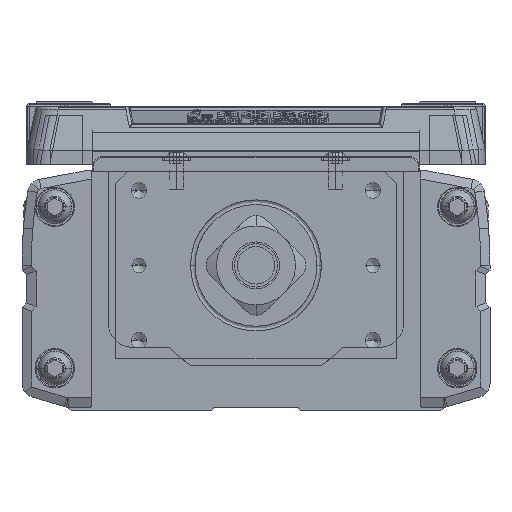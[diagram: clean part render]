
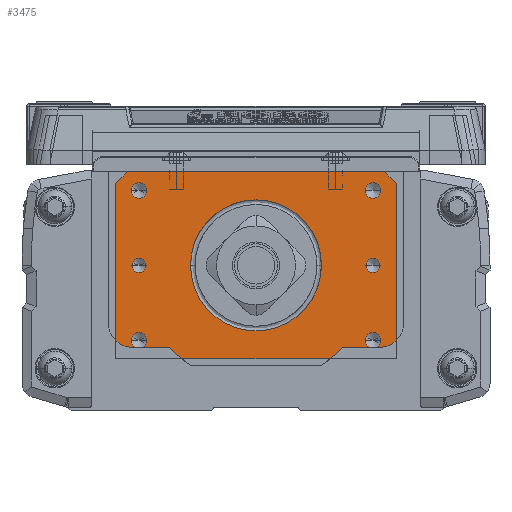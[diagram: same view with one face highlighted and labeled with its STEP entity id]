
A CAD part, left-side view. The second image highlights one B-rep face of the part: STEP entity #3475.
In plain terms, the highlighted planar face has unit normal (-1, 0, 0).
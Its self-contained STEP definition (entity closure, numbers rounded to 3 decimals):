
#3475=ADVANCED_FACE('',(#8421,#8422,#8423,#8424,#8425,#8426,#8427,#8428),#8429,.T.);
#8421=FACE_BOUND('',#15323,.T.);
#8422=FACE_BOUND('',#15324,.T.);
#8423=FACE_BOUND('',#15325,.T.);
#8424=FACE_BOUND('',#15326,.T.);
#8425=FACE_BOUND('',#15327,.T.);
#8426=FACE_BOUND('',#15328,.T.);
#8427=FACE_BOUND('',#15329,.T.);
#8428=FACE_OUTER_BOUND('',#15330,.T.);
#8429=PLANE('',#15331);
#15323=EDGE_LOOP('',(#25221,#25222));
#15324=EDGE_LOOP('',(#25223,#25224));
#15325=EDGE_LOOP('',(#25225,#25226));
#15326=EDGE_LOOP('',(#25227,#25228));
#15327=EDGE_LOOP('',(#25229,#25230));
#15328=EDGE_LOOP('',(#25231,#25232));
#15329=EDGE_LOOP('',(#25233,#25234,#25235));
#15330=EDGE_LOOP('',(#25236,#25237,#25238,#25239,#25240,#25241));
#15331=AXIS2_PLACEMENT_3D('',#25242,#25243,#25244);
#25221=ORIENTED_EDGE('',*,*,#42698,.T.);
#25222=ORIENTED_EDGE('',*,*,#42077,.T.);
#25223=ORIENTED_EDGE('',*,*,#42699,.T.);
#25224=ORIENTED_EDGE('',*,*,#42700,.T.);
#25225=ORIENTED_EDGE('',*,*,#42701,.T.);
#25226=ORIENTED_EDGE('',*,*,#42702,.T.);
#25227=ORIENTED_EDGE('',*,*,#42703,.T.);
#25228=ORIENTED_EDGE('',*,*,#42704,.T.);
#25229=ORIENTED_EDGE('',*,*,#42705,.T.);
#25230=ORIENTED_EDGE('',*,*,#42706,.T.);
#25231=ORIENTED_EDGE('',*,*,#42707,.T.);
#25232=ORIENTED_EDGE('',*,*,#41582,.T.);
#25233=ORIENTED_EDGE('',*,*,#42708,.T.);
#25234=ORIENTED_EDGE('',*,*,#42709,.T.);
#25235=ORIENTED_EDGE('',*,*,#42710,.T.);
#25236=ORIENTED_EDGE('',*,*,#42711,.F.);
#25237=ORIENTED_EDGE('',*,*,#42470,.F.);
#25238=ORIENTED_EDGE('',*,*,#42712,.T.);
#25239=ORIENTED_EDGE('',*,*,#42626,.T.);
#25240=ORIENTED_EDGE('',*,*,#42713,.F.);
#25241=ORIENTED_EDGE('',*,*,#42642,.T.);
#25242=CARTESIAN_POINT('',(-580.,0.,-20.));
#25243=DIRECTION('',(-1.0,0.,0.));
#25244=DIRECTION('',(0.,-1.0,0.));
#41582=EDGE_CURVE('',#50352,#50349,#50353,.T.);
#42077=EDGE_CURVE('',#51181,#51178,#51182,.T.);
#42470=EDGE_CURVE('',#51813,#51809,#51815,.T.);
#42626=EDGE_CURVE('',#52063,#52060,#52064,.T.);
#42642=EDGE_CURVE('',#52088,#52085,#52089,.T.);
#42698=EDGE_CURVE('',#51178,#51181,#52176,.T.);
#42699=EDGE_CURVE('',#52177,#52178,#52179,.T.);
#42700=EDGE_CURVE('',#52178,#52177,#52180,.T.);
#42701=EDGE_CURVE('',#52181,#52182,#52183,.T.);
#42702=EDGE_CURVE('',#52182,#52181,#52184,.T.);
#42703=EDGE_CURVE('',#52185,#52186,#52187,.T.);
#42704=EDGE_CURVE('',#52186,#52185,#52188,.T.);
#42705=EDGE_CURVE('',#52189,#52190,#52191,.T.);
#42706=EDGE_CURVE('',#52190,#52189,#52192,.T.);
#42707=EDGE_CURVE('',#50349,#50352,#52193,.T.);
#42708=EDGE_CURVE('',#52194,#52195,#52196,.T.);
#42709=EDGE_CURVE('',#52195,#52197,#52198,.T.);
#42710=EDGE_CURVE('',#52197,#52194,#52199,.T.);
#42711=EDGE_CURVE('',#51809,#52085,#52200,.T.);
#42712=EDGE_CURVE('',#51813,#52063,#52201,.T.);
#42713=EDGE_CURVE('',#52088,#52060,#52202,.T.);
#50349=VERTEX_POINT('',#62785);
#50352=VERTEX_POINT('',#62789);
#50353=CIRCLE('',#62790,1.65);
#51178=VERTEX_POINT('',#63901);
#51181=VERTEX_POINT('',#63905);
#51182=CIRCLE('',#63906,1.5);
#51809=VERTEX_POINT('',#64749);
#51813=VERTEX_POINT('',#64755);
#51815=LINE('',#64758,#64759);
#52060=VERTEX_POINT('',#65209);
#52063=VERTEX_POINT('',#65213);
#52064=LINE('',#65214,#65215);
#52085=VERTEX_POINT('',#65242);
#52088=VERTEX_POINT('',#65246);
#52089=LINE('',#65247,#65248);
#52176=CIRCLE('',#65367,1.5);
#52177=VERTEX_POINT('',#65368);
#52178=VERTEX_POINT('',#65369);
#52179=CIRCLE('',#65370,1.5);
#52180=CIRCLE('',#65371,1.5);
#52181=VERTEX_POINT('',#65372);
#52182=VERTEX_POINT('',#65373);
#52183=CIRCLE('',#65374,1.65);
#52184=CIRCLE('',#65375,1.65);
#52185=VERTEX_POINT('',#65376);
#52186=VERTEX_POINT('',#65377);
#52187=CIRCLE('',#65378,1.65);
#52188=CIRCLE('',#65379,1.65);
#52189=VERTEX_POINT('',#65380);
#52190=VERTEX_POINT('',#65381);
#52191=CIRCLE('',#65382,1.65);
#52192=CIRCLE('',#65383,1.65);
#52193=CIRCLE('',#65384,1.65);
#52194=VERTEX_POINT('',#65385);
#52195=VERTEX_POINT('',#65386);
#52196=CIRCLE('',#65387,14.0);
#52197=VERTEX_POINT('',#65388);
#52198=CIRCLE('',#65389,14.0);
#52199=CIRCLE('',#65390,14.0);
#52200=LINE('',#65391,#65392);
#52201=LINE('',#65393,#65394);
#52202=LINE('',#65395,#65396);
#62785=CARTESIAN_POINT('',(-580.,-26.65,16.));
#62789=CARTESIAN_POINT('',(-580.,-23.35,16.));
#62790=AXIS2_PLACEMENT_3D('',#76688,#76689,#76690);
#63901=CARTESIAN_POINT('',(-580.,-26.5,0.));
#63905=CARTESIAN_POINT('',(-580.,-23.5,0.));
#63906=AXIS2_PLACEMENT_3D('',#77368,#77369,#77370);
#64749=CARTESIAN_POINT('',(-580.,30.,17.5));
#64755=CARTESIAN_POINT('',(-580.,30.,-20.));
#64758=CARTESIAN_POINT('',(-580.,30.,-20.));
#64759=VECTOR('',#77897,10.0);
#65209=CARTESIAN_POINT('',(-580.,-30.,17.5));
#65213=CARTESIAN_POINT('',(-580.,-30.,-20.));
#65214=CARTESIAN_POINT('',(-580.,-30.,-20.));
#65215=VECTOR('',#78082,10.0);
#65242=CARTESIAN_POINT('',(-580.,27.5,20.));
#65246=CARTESIAN_POINT('',(-580.,-27.5,20.));
#65247=CARTESIAN_POINT('',(-580.,30.,20.));
#65248=VECTOR('',#78102,10.0);
#65367=AXIS2_PLACEMENT_3D('',#78165,#78166,#78167);
#65368=CARTESIAN_POINT('',(-580.,26.5,0.));
#65369=CARTESIAN_POINT('',(-580.,23.5,0.));
#65370=AXIS2_PLACEMENT_3D('',#78168,#78169,#78170);
#65371=AXIS2_PLACEMENT_3D('',#78171,#78172,#78173);
#65372=CARTESIAN_POINT('',(-580.,-26.65,-16.));
#65373=CARTESIAN_POINT('',(-580.,-23.35,-16.));
#65374=AXIS2_PLACEMENT_3D('',#78174,#78175,#78176);
#65375=AXIS2_PLACEMENT_3D('',#78177,#78178,#78179);
#65376=CARTESIAN_POINT('',(-580.,26.65,-16.));
#65377=CARTESIAN_POINT('',(-580.,23.35,-16.));
#65378=AXIS2_PLACEMENT_3D('',#78180,#78181,#78182);
#65379=AXIS2_PLACEMENT_3D('',#78183,#78184,#78185);
#65380=CARTESIAN_POINT('',(-580.,26.65,16.));
#65381=CARTESIAN_POINT('',(-580.,23.35,16.));
#65382=AXIS2_PLACEMENT_3D('',#78186,#78187,#78188);
#65383=AXIS2_PLACEMENT_3D('',#78189,#78190,#78191);
#65384=AXIS2_PLACEMENT_3D('',#78192,#78193,#78194);
#65385=CARTESIAN_POINT('',(-580.,0.,-14.));
#65386=CARTESIAN_POINT('',(-580.,14.,0.));
#65387=AXIS2_PLACEMENT_3D('',#78195,#78196,#78197);
#65388=CARTESIAN_POINT('',(-580.,-14.,0.));
#65389=AXIS2_PLACEMENT_3D('',#78198,#78199,#78200);
#65390=AXIS2_PLACEMENT_3D('',#78201,#78202,#78203);
#65391=CARTESIAN_POINT('',(-580.,31.25,16.25));
#65392=VECTOR('',#78204,10.);
#65393=CARTESIAN_POINT('',(-580.,30.,-20.));
#65394=VECTOR('',#78205,10.0);
#65395=CARTESIAN_POINT('',(-580.,-31.25,16.25));
#65396=VECTOR('',#78206,10.);
#76688=CARTESIAN_POINT('',(-580.,-25.,16.));
#76689=DIRECTION('',(1.0,0.,0.));
#76690=DIRECTION('',(0.,-1.0,0.));
#77368=CARTESIAN_POINT('',(-580.,-25.,0.));
#77369=DIRECTION('',(1.0,0.,0.));
#77370=DIRECTION('',(0.,-1.0,0.));
#77897=DIRECTION('',(0.,0.,1.0));
#78082=DIRECTION('',(0.,0.,1.0));
#78102=DIRECTION('',(0.,1.0,0.));
#78165=CARTESIAN_POINT('',(-580.,-25.,0.));
#78166=DIRECTION('',(1.0,0.,0.));
#78167=DIRECTION('',(0.,-1.0,0.));
#78168=CARTESIAN_POINT('',(-580.,25.,0.));
#78169=DIRECTION('',(1.0,0.,0.));
#78170=DIRECTION('',(0.,1.0,0.));
#78171=CARTESIAN_POINT('',(-580.,25.,0.));
#78172=DIRECTION('',(1.0,0.,0.));
#78173=DIRECTION('',(0.,1.0,0.));
#78174=CARTESIAN_POINT('',(-580.,-25.,-16.));
#78175=DIRECTION('',(1.0,0.,0.));
#78176=DIRECTION('',(0.,-1.0,0.));
#78177=CARTESIAN_POINT('',(-580.,-25.,-16.));
#78178=DIRECTION('',(1.0,0.,0.));
#78179=DIRECTION('',(0.,-1.0,0.));
#78180=CARTESIAN_POINT('',(-580.,25.,-16.));
#78181=DIRECTION('',(1.0,0.,0.));
#78182=DIRECTION('',(0.,1.0,0.));
#78183=CARTESIAN_POINT('',(-580.,25.,-16.));
#78184=DIRECTION('',(1.0,0.,0.));
#78185=DIRECTION('',(0.,1.0,0.));
#78186=CARTESIAN_POINT('',(-580.,25.,16.));
#78187=DIRECTION('',(1.0,0.,0.));
#78188=DIRECTION('',(0.,1.0,0.));
#78189=CARTESIAN_POINT('',(-580.,25.,16.));
#78190=DIRECTION('',(1.0,0.,0.));
#78191=DIRECTION('',(0.,1.0,0.));
#78192=CARTESIAN_POINT('',(-580.,-25.,16.));
#78193=DIRECTION('',(1.0,0.,0.));
#78194=DIRECTION('',(0.,-1.0,0.));
#78195=CARTESIAN_POINT('',(-580.,0.,0.));
#78196=DIRECTION('',(1.0,0.,0.));
#78197=DIRECTION('',(0.,0.,1.0));
#78198=CARTESIAN_POINT('',(-580.,0.,0.));
#78199=DIRECTION('',(1.0,0.,0.));
#78200=DIRECTION('',(0.,0.,1.0));
#78201=CARTESIAN_POINT('',(-580.,0.,0.));
#78202=DIRECTION('',(1.0,0.,0.));
#78203=DIRECTION('',(0.,0.,1.0));
#78204=DIRECTION('',(0.,-0.707,0.707));
#78205=DIRECTION('',(0.,-1.0,0.));
#78206=DIRECTION('',(0.0,-0.707,-0.707));
